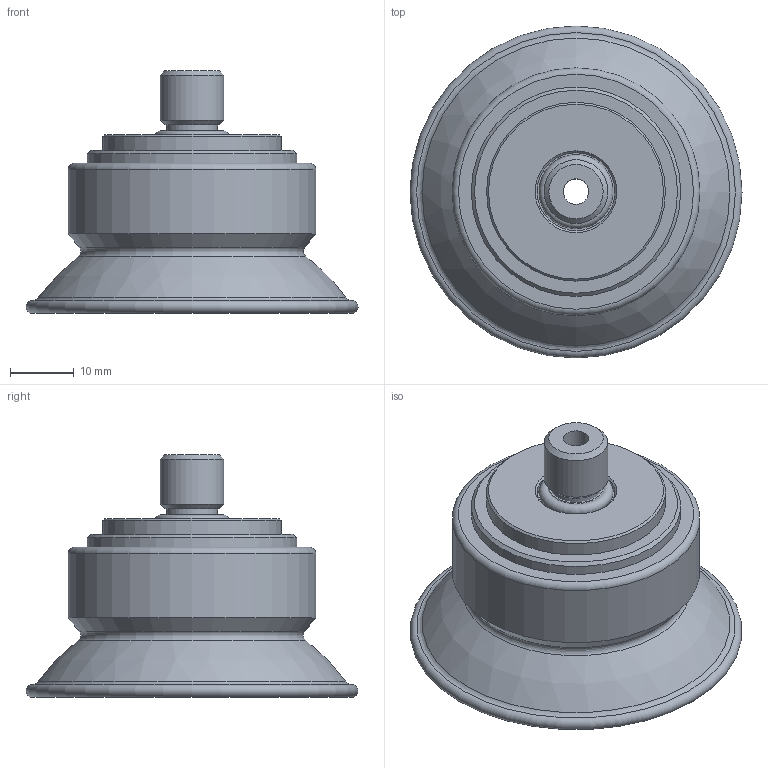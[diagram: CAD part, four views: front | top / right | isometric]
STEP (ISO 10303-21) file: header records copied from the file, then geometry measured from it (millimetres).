
FILE_DESCRIPTION( ( 'Unknown' ), '1' );
FILE_NAME( 'D:/弥龋覆(冠固急)/Smart Cup/寇何侩-唱荤魂TYPE/FCF50-M10M.stp', 'Unknown', ( 'Unknown' ), ( 'Unknown' ), 'PSStep 10.0', 'Unknown', ' ' );
FILE_SCHEMA( ( 'AUTOMOTIVE_DESIGN { 1 0 10303 214 1 1 1 1 }' ) );
Length unit declared in the file: millimetre
Products named in the file (4): Assem1; FCF50; VDF-FCF-M10M; M10M-oring
Bounding box: 52 x 52 x 38 mm (x, y, z)
Volume: 45567.6 mm3; surface area: 33384.9 mm2
Topology: 6 solids, 6 shells, 140 faces, 242 edges, 140 vertices
Faces by surface type: cylinder 42, cone 40, plane 38, torus 14, bspline 4, sphere 2
Full cylindrical faces by diameter (mm): 4 x2, 6.928 x2, 7.5 x2, 8 x2, 9.5 x2, 10 x2, 12.2 x2, 16 x8, 16.8 x4, 28 x2, 30.8 x4, 32.8 x6, 38.8 x2, 40.797 x2
Entity records: 2077 total; most frequent: DIRECTION 282, CARTESIAN_POINT 266, AXIS2_PLACEMENT_3D 141, EDGE_LOOP 138, ORIENTED_EDGE 138, FACE_OUTER_BOUND 99, STYLED_ITEM 70, PRESENTATION_STYLE_ASSIGNMENT 70
